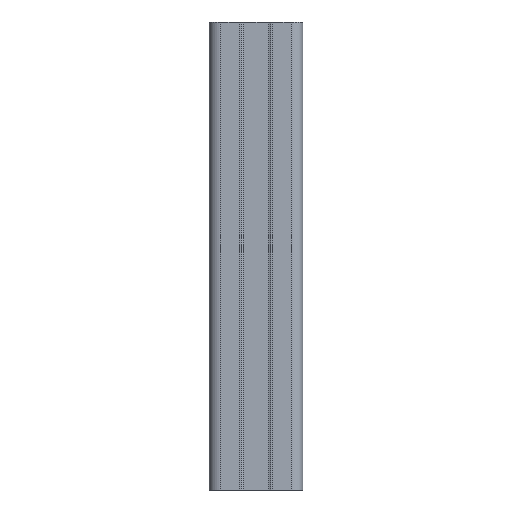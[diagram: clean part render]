
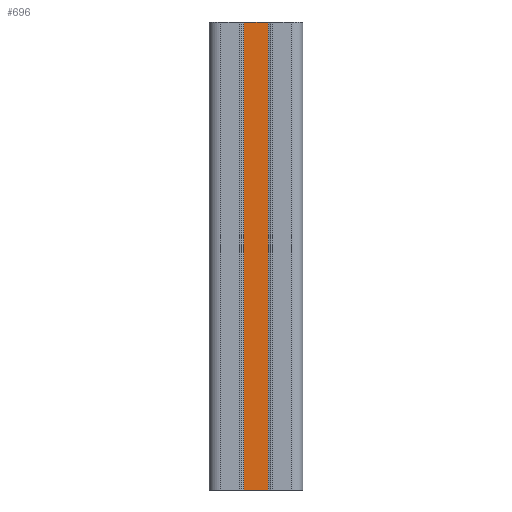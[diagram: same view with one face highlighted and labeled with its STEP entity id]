
A CAD part, front view. The second image highlights one B-rep face of the part: STEP entity #696.
In plain terms, the highlighted planar face has unit normal (0, -1, 0).
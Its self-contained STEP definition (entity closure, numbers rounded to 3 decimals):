
#17 = EDGE_CURVE ( 'NONE', #888, #945, #2079, .T. ) ;
#96 = VECTOR ( 'NONE', #2294, 1000. ) ;
#390 = EDGE_CURVE ( 'NONE', #715, #637, #1664, .T. ) ;
#459 = CARTESIAN_POINT ( 'NONE',  ( 2.565, -3.9, 0. ) ) ;
#518 = LINE ( 'NONE', #1651, #1127 ) ;
#637 = VERTEX_POINT ( 'NONE', #2114 ) ;
#680 = CARTESIAN_POINT ( 'NONE',  ( -2.565, -3.9, 0. ) ) ;
#696 = ADVANCED_FACE ( 'NONE', ( #2329 ), #1912, .F. ) ;
#715 = VERTEX_POINT ( 'NONE', #2526 ) ;
#818 = EDGE_LOOP ( 'NONE', ( #2010, #1126, #2549, #886 ) ) ;
#865 = DIRECTION ( 'NONE',  ( 0., 1., 0. ) ) ;
#886 = ORIENTED_EDGE ( 'NONE', *, *, #2247, .T. ) ;
#888 = VERTEX_POINT ( 'NONE', #981 ) ;
#945 = VERTEX_POINT ( 'NONE', #680 ) ;
#981 = CARTESIAN_POINT ( 'NONE',  ( 2.565, -3.9, 0. ) ) ;
#1048 = CARTESIAN_POINT ( 'NONE',  ( -2.98, -3.9, -100. ) ) ;
#1126 = ORIENTED_EDGE ( 'NONE', *, *, #2041, .T. ) ;
#1127 = VECTOR ( 'NONE', #2275, 1000. ) ;
#1180 = AXIS2_PLACEMENT_3D ( 'NONE', #2118, #865, #2309 ) ;
#1264 = DIRECTION ( 'NONE',  ( -1., 0., 0. ) ) ;
#1368 = VECTOR ( 'NONE', #1264, 1000. ) ;
#1467 = LINE ( 'NONE', #459, #96 ) ;
#1651 = CARTESIAN_POINT ( 'NONE',  ( -2.565, -3.9, -100. ) ) ;
#1664 = LINE ( 'NONE', #1048, #1368 ) ;
#1746 = DIRECTION ( 'NONE',  ( -1., 0., 0. ) ) ;
#1912 = PLANE ( 'NONE',  #1180 ) ;
#2010 = ORIENTED_EDGE ( 'NONE', *, *, #17, .T. ) ;
#2041 = EDGE_CURVE ( 'NONE', #945, #637, #518, .T. ) ;
#2079 = LINE ( 'NONE', #2340, #2119 ) ;
#2114 = CARTESIAN_POINT ( 'NONE',  ( -2.565, -3.9, -100. ) ) ;
#2118 = CARTESIAN_POINT ( 'NONE',  ( -2.98, -3.9, -100. ) ) ;
#2119 = VECTOR ( 'NONE', #1746, 1000. ) ;
#2247 = EDGE_CURVE ( 'NONE', #715, #888, #1467, .T. ) ;
#2275 = DIRECTION ( 'NONE',  ( 0., 0., -1. ) ) ;
#2294 = DIRECTION ( 'NONE',  ( 0., 0., 1. ) ) ;
#2309 = DIRECTION ( 'NONE',  ( -1., 0., 0. ) ) ;
#2329 = FACE_OUTER_BOUND ( 'NONE', #818, .T. ) ;
#2340 = CARTESIAN_POINT ( 'NONE',  ( -2.98, -3.9, 0. ) ) ;
#2526 = CARTESIAN_POINT ( 'NONE',  ( 2.565, -3.9, -100. ) ) ;
#2549 = ORIENTED_EDGE ( 'NONE', *, *, #390, .F. ) ;
